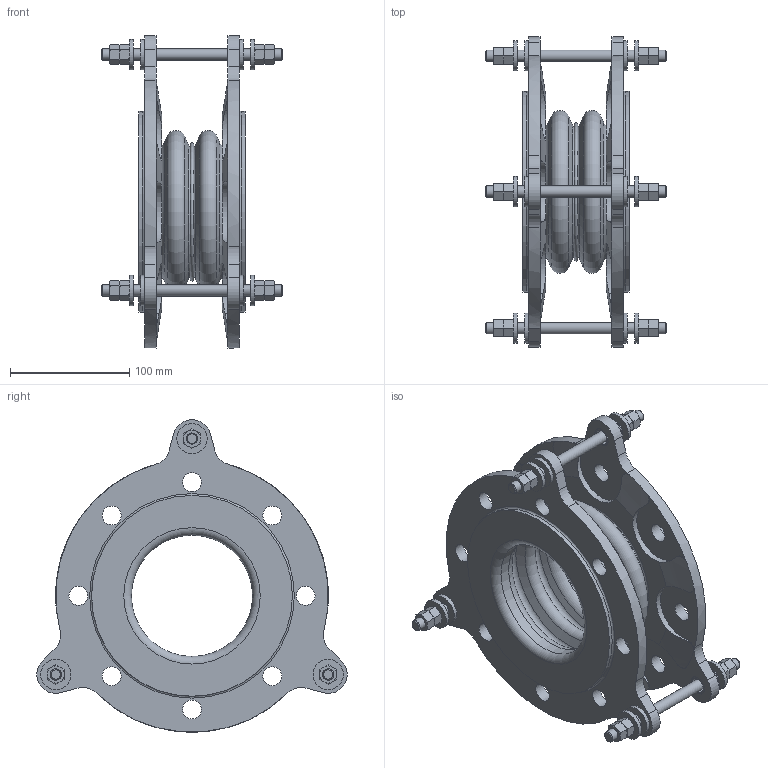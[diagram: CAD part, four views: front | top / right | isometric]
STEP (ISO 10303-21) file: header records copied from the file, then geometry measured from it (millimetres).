
FILE_DESCRIPTION(/* description */ (''),/* implementation_level */ '2;1');
FILE_NAME(/* name */ 'C:\Users\rramoutar\Desktop\802\802 4IDx3.5FF.stp',/* time_stamp */ '2016-04-24T12:03:10-04:00',/* author */ ('rramoutar'),/* organization */ ('Mason Industries Inc.'),/* preprocessor_version */ 'ST-DEVELOPER v15.6',/* originating_system */ 'Autodesk Inventor 2015',/* authorisation */ '');
FILE_SCHEMA (('CONFIG_CONTROL_DESIGN'));
Length unit declared in the file: inch
Products named in the file (1): 802 4IDx3.5FF
Bounding box: 152.4 x 259.85 x 261.88 mm (x, y, z)
Volume: 1055553.9 mm3; surface area: 300806.9 mm2
Topology: 5 solids, 5 shells, 520 faces, 1157 edges, 693 vertices
Faces by surface type: plane 184, cone 174, cylinder 141, torus 21
Full cylindrical faces by diameter (mm): 9.525 x9, 11.112 x6, 13.097 x6, 15.478 x6, 15.875 x22, 25.4 x12, 101.6 x2, 107.95 x2, 109.537 x2, 168.275 x2
Entity records: 14508 total; most frequent: CARTESIAN_POINT 3568, DIRECTION 2142, ORIENTED_EDGE 2096, EDGE_CURVE 1048, AXIS2_PLACEMENT_3D 957, EDGE_LOOP 717, VERTEX_POINT 687, FACE_OUTER_BOUND 520
